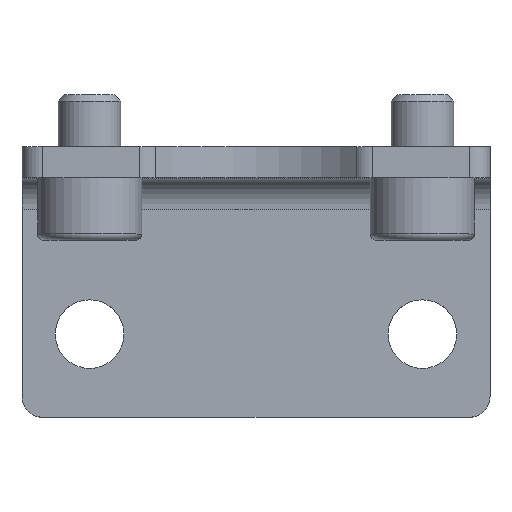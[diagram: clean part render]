
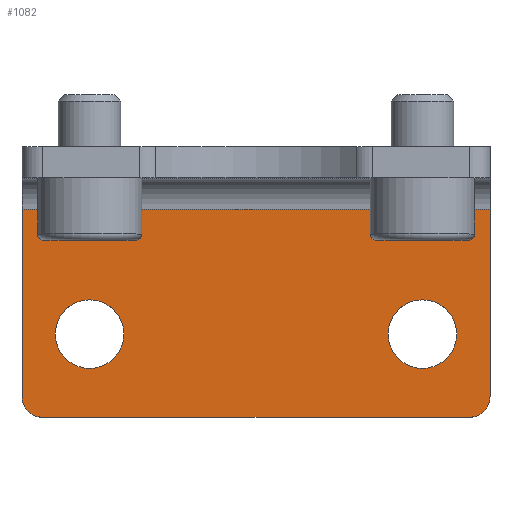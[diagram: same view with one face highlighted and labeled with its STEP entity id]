
A CAD part, top view. The second image highlights one B-rep face of the part: STEP entity #1082.
In plain terms, the highlighted planar face has unit normal (0, 0, 1).
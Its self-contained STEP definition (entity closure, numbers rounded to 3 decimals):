
#88=LINE('',#1831,#158);
#94=LINE('',#1847,#164);
#100=LINE('',#1866,#170);
#101=LINE('',#1868,#171);
#158=VECTOR('',#1483,10.);
#164=VECTOR('',#1499,10.);
#170=VECTOR('',#1529,10.);
#171=VECTOR('',#1532,10.);
#203=FACE_BOUND('',#327,.T.);
#204=FACE_BOUND('',#328,.T.);
#260=FACE_OUTER_BOUND('',#326,.T.);
#326=EDGE_LOOP('',(#931,#932,#933,#934,#935,#936));
#327=EDGE_LOOP('',(#937));
#328=EDGE_LOOP('',(#938));
#369=CIRCLE('',#1174,3.3);
#372=CIRCLE('',#1178,3.3);
#385=CIRCLE('',#1201,2.);
#388=CIRCLE('',#1207,2.);
#457=VERTEX_POINT('',#1745);
#460=VERTEX_POINT('',#1753);
#483=VERTEX_POINT('',#1818);
#484=VERTEX_POINT('',#1819);
#488=VERTEX_POINT('',#1829);
#492=VERTEX_POINT('',#1841);
#493=VERTEX_POINT('',#1845);
#494=VERTEX_POINT('',#1862);
#582=EDGE_CURVE('',#457,#457,#369,.T.);
#586=EDGE_CURVE('',#460,#460,#372,.T.);
#617=EDGE_CURVE('',#483,#484,#385,.T.);
#623=EDGE_CURVE('',#488,#483,#88,.T.);
#628=EDGE_CURVE('',#492,#488,#388,.T.);
#631=EDGE_CURVE('',#493,#492,#94,.T.);
#641=EDGE_CURVE('',#493,#494,#100,.T.);
#642=EDGE_CURVE('',#484,#494,#101,.T.);
#931=ORIENTED_EDGE('',*,*,#617,.F.);
#932=ORIENTED_EDGE('',*,*,#623,.F.);
#933=ORIENTED_EDGE('',*,*,#628,.F.);
#934=ORIENTED_EDGE('',*,*,#631,.F.);
#935=ORIENTED_EDGE('',*,*,#641,.T.);
#936=ORIENTED_EDGE('',*,*,#642,.F.);
#937=ORIENTED_EDGE('',*,*,#582,.T.);
#938=ORIENTED_EDGE('',*,*,#586,.T.);
#969=PLANE('',#1222);
#1082=ADVANCED_FACE('',(#260,#203,#204),#969,.T.);
#1174=AXIS2_PLACEMENT_3D('',#1747,#1400,#1401);
#1178=AXIS2_PLACEMENT_3D('',#1755,#1409,#1410);
#1201=AXIS2_PLACEMENT_3D('',#1820,#1473,#1474);
#1207=AXIS2_PLACEMENT_3D('',#1842,#1493,#1494);
#1222=AXIS2_PLACEMENT_3D('',#1869,#1533,#1534);
#1400=DIRECTION('center_axis',(0.,0.,
-1.));
#1401=DIRECTION('ref_axis',(1.,0.,0.));
#1409=DIRECTION('center_axis',(0.,0.,
-1.));
#1410=DIRECTION('ref_axis',(1.,0.,0.));
#1473=DIRECTION('center_axis',(0.,0.,
-1.));
#1474=DIRECTION('ref_axis',(-0.707,-0.707,0.));
#1483=DIRECTION('',(-1.,0.,0.));
#1493=DIRECTION('center_axis',(0.,0.,
-1.));
#1494=DIRECTION('ref_axis',(0.707,-0.707,0.));
#1499=DIRECTION('',(0.,-1.,0.));
#1529=DIRECTION('',(-1.,0.,0.));
#1532=DIRECTION('',(0.,1.,0.));
#1533=DIRECTION('center_axis',(0.,0.,
1.));
#1534=DIRECTION('ref_axis',(-1.,0.,0.));
#1745=CARTESIAN_POINT('',(12.7,8.,3.));
#1747=CARTESIAN_POINT('Origin',(16.,8.,3.));
#1753=CARTESIAN_POINT('',(-19.3,8.,3.));
#1755=CARTESIAN_POINT('Origin',(-16.,8.,3.));
#1818=CARTESIAN_POINT('',(-20.5,0.,3.));
#1819=CARTESIAN_POINT('',(-22.5,2.,3.));
#1820=CARTESIAN_POINT('Origin',(-20.5,2.,3.));
#1829=CARTESIAN_POINT('',(20.5,0.,3.));
#1831=CARTESIAN_POINT('',(-22.5,0.,3.));
#1841=CARTESIAN_POINT('',(22.5,2.,3.));
#1842=CARTESIAN_POINT('Origin',(20.5,2.,3.));
#1845=CARTESIAN_POINT('',(22.5,20.,3.));
#1847=CARTESIAN_POINT('',(22.5,0.,3.));
#1862=CARTESIAN_POINT('',(-22.5,20.,3.));
#1866=CARTESIAN_POINT('',(-11.25,20.,3.));
#1868=CARTESIAN_POINT('',(-22.5,26.,3.));
#1869=CARTESIAN_POINT('Origin',(0.,13.,3.));
